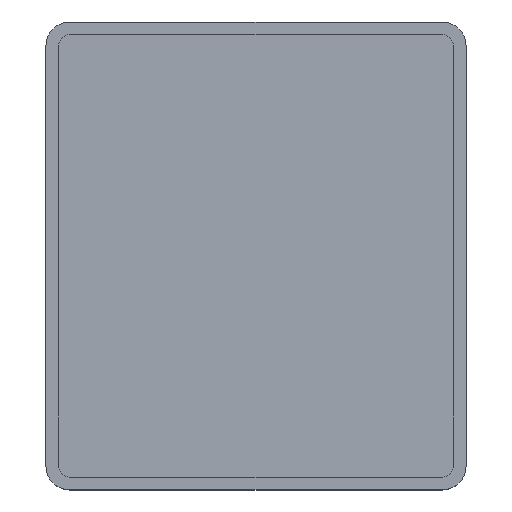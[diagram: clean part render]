
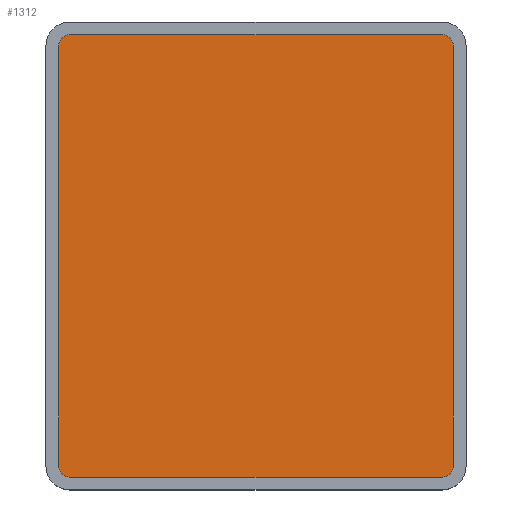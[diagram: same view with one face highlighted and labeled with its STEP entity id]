
A CAD part, top view. The second image highlights one B-rep face of the part: STEP entity #1312.
In plain terms, the highlighted planar face has unit normal (0, 0, 1).
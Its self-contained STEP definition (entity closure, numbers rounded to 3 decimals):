
#359 = CYLINDRICAL_SURFACE('',#360,0.7);
#360 = AXIS2_PLACEMENT_3D('',#361,#362,#363);
#361 = CARTESIAN_POINT('',(1.5,1.5,1.));
#362 = DIRECTION('',(0.,0.,1.));
#363 = DIRECTION('',(-1.,-0.,0.));
#386 = PLANE('',#387);
#387 = AXIS2_PLACEMENT_3D('',#388,#389,#390);
#388 = CARTESIAN_POINT('',(0.8,0.8,1.));
#389 = DIRECTION('',(1.,0.,0.));
#390 = DIRECTION('',(0.,0.,1.));
#414 = CYLINDRICAL_SURFACE('',#415,0.7);
#415 = AXIS2_PLACEMENT_3D('',#416,#417,#418);
#416 = CARTESIAN_POINT('',(1.5,27.9,1.));
#417 = DIRECTION('',(0.,0.,1.));
#418 = DIRECTION('',(-1.,-0.,0.));
#441 = PLANE('',#442);
#442 = AXIS2_PLACEMENT_3D('',#443,#444,#445);
#443 = CARTESIAN_POINT('',(0.8,28.6,1.));
#444 = DIRECTION('',(0.,1.,0.));
#445 = DIRECTION('',(0.,0.,1.));
#469 = CYLINDRICAL_SURFACE('',#470,0.7);
#470 = AXIS2_PLACEMENT_3D('',#471,#472,#473);
#471 = CARTESIAN_POINT('',(24.9,27.9,1.));
#472 = DIRECTION('',(0.,0.,1.));
#473 = DIRECTION('',(1.,0.,-0.));
#496 = PLANE('',#497);
#497 = AXIS2_PLACEMENT_3D('',#498,#499,#500);
#498 = CARTESIAN_POINT('',(25.6,0.8,1.));
#499 = DIRECTION('',(1.,0.,0.));
#500 = DIRECTION('',(0.,0.,1.));
#524 = CYLINDRICAL_SURFACE('',#525,0.7);
#525 = AXIS2_PLACEMENT_3D('',#526,#527,#528);
#526 = CARTESIAN_POINT('',(24.9,1.5,1.));
#527 = DIRECTION('',(0.,0.,1.));
#528 = DIRECTION('',(1.,0.,-0.));
#549 = PLANE('',#550);
#550 = AXIS2_PLACEMENT_3D('',#551,#552,#553);
#551 = CARTESIAN_POINT('',(0.8,0.8,1.));
#552 = DIRECTION('',(0.,1.,0.));
#553 = DIRECTION('',(0.,0.,1.));
#908 = VERTEX_POINT('',#909);
#909 = CARTESIAN_POINT('',(0.8,1.5,1.));
#930 = EDGE_CURVE('',#908,#931,#933,.T.);
#931 = VERTEX_POINT('',#932);
#932 = CARTESIAN_POINT('',(1.5,0.8,1.));
#933 = SURFACE_CURVE('',#934,(#939,#946),.PCURVE_S1.);
#934 = CIRCLE('',#935,0.7);
#935 = AXIS2_PLACEMENT_3D('',#936,#937,#938);
#936 = CARTESIAN_POINT('',(1.5,1.5,1.));
#937 = DIRECTION('',(0.,0.,1.));
#938 = DIRECTION('',(0.,-1.,0.));
#939 = PCURVE('',#359,#940);
#940 = DEFINITIONAL_REPRESENTATION('',(#941),#945);
#941 = LINE('',#942,#943);
#942 = CARTESIAN_POINT('',(-4.712,0.));
#943 = VECTOR('',#944,1.);
#944 = DIRECTION('',(1.,0.));
#945 = ( GEOMETRIC_REPRESENTATION_CONTEXT(2) 
PARAMETRIC_REPRESENTATION_CONTEXT() REPRESENTATION_CONTEXT('2D SPACE',''
  ) );
#946 = PCURVE('',#947,#952);
#947 = PLANE('',#948);
#948 = AXIS2_PLACEMENT_3D('',#949,#950,#951);
#949 = CARTESIAN_POINT('',(0.8,0.8,1.));
#950 = DIRECTION('',(0.,0.,1.));
#951 = DIRECTION('',(1.,0.,0.));
#952 = DEFINITIONAL_REPRESENTATION('',(#953),#957);
#953 = CIRCLE('',#954,0.7);
#954 = AXIS2_PLACEMENT_2D('',#955,#956);
#955 = CARTESIAN_POINT('',(0.7,0.7));
#956 = DIRECTION('',(0.,-1.));
#957 = ( GEOMETRIC_REPRESENTATION_CONTEXT(2) 
PARAMETRIC_REPRESENTATION_CONTEXT() REPRESENTATION_CONTEXT('2D SPACE',''
  ) );
#984 = EDGE_CURVE('',#931,#985,#987,.T.);
#985 = VERTEX_POINT('',#986);
#986 = CARTESIAN_POINT('',(24.9,0.8,1.));
#987 = SURFACE_CURVE('',#988,(#992,#999),.PCURVE_S1.);
#988 = LINE('',#989,#990);
#989 = CARTESIAN_POINT('',(0.8,0.8,1.));
#990 = VECTOR('',#991,1.);
#991 = DIRECTION('',(1.,0.,0.));
#992 = PCURVE('',#549,#993);
#993 = DEFINITIONAL_REPRESENTATION('',(#994),#998);
#994 = LINE('',#995,#996);
#995 = CARTESIAN_POINT('',(0.,0.));
#996 = VECTOR('',#997,1.);
#997 = DIRECTION('',(0.,1.));
#998 = ( GEOMETRIC_REPRESENTATION_CONTEXT(2) 
PARAMETRIC_REPRESENTATION_CONTEXT() REPRESENTATION_CONTEXT('2D SPACE',''
  ) );
#999 = PCURVE('',#947,#1000);
#1000 = DEFINITIONAL_REPRESENTATION('',(#1001),#1005);
#1001 = LINE('',#1002,#1003);
#1002 = CARTESIAN_POINT('',(0.,0.));
#1003 = VECTOR('',#1004,1.);
#1004 = DIRECTION('',(1.,0.));
#1005 = ( GEOMETRIC_REPRESENTATION_CONTEXT(2) 
PARAMETRIC_REPRESENTATION_CONTEXT() REPRESENTATION_CONTEXT('2D SPACE',''
  ) );
#1034 = VERTEX_POINT('',#1035);
#1035 = CARTESIAN_POINT('',(25.6,1.5,1.));
#1056 = EDGE_CURVE('',#1034,#985,#1057,.T.);
#1057 = SURFACE_CURVE('',#1058,(#1063,#1070),.PCURVE_S1.);
#1058 = CIRCLE('',#1059,0.7);
#1059 = AXIS2_PLACEMENT_3D('',#1060,#1061,#1062);
#1060 = CARTESIAN_POINT('',(24.9,1.5,1.));
#1061 = DIRECTION('',(-0.,-0.,-1.));
#1062 = DIRECTION('',(0.,-1.,0.));
#1063 = PCURVE('',#524,#1064);
#1064 = DEFINITIONAL_REPRESENTATION('',(#1065),#1069);
#1065 = LINE('',#1066,#1067);
#1066 = CARTESIAN_POINT('',(4.712,-0.));
#1067 = VECTOR('',#1068,1.);
#1068 = DIRECTION('',(-1.,0.));
#1069 = ( GEOMETRIC_REPRESENTATION_CONTEXT(2) 
PARAMETRIC_REPRESENTATION_CONTEXT() REPRESENTATION_CONTEXT('2D SPACE',''
  ) );
#1070 = PCURVE('',#947,#1071);
#1071 = DEFINITIONAL_REPRESENTATION('',(#1072),#1080);
#1072 = ( BOUNDED_CURVE() B_SPLINE_CURVE(2,(#1073,#1074,#1075,#1076,
#1077,#1078,#1079),.UNSPECIFIED.,.T.,.F.) B_SPLINE_CURVE_WITH_KNOTS((1,2
    ,2,2,2,1),(-2.094,0.,2.094,4.189,
6.283,8.378),.UNSPECIFIED.) CURVE() 
GEOMETRIC_REPRESENTATION_ITEM() RATIONAL_B_SPLINE_CURVE((1.,0.5,1.,0.5,
1.,0.5,1.)) REPRESENTATION_ITEM('') );
#1073 = CARTESIAN_POINT('',(24.1,0.));
#1074 = CARTESIAN_POINT('',(22.888,0.));
#1075 = CARTESIAN_POINT('',(23.494,1.05));
#1076 = CARTESIAN_POINT('',(24.1,2.1));
#1077 = CARTESIAN_POINT('',(24.706,1.05));
#1078 = CARTESIAN_POINT('',(25.312,0.));
#1079 = CARTESIAN_POINT('',(24.1,0.));
#1080 = ( GEOMETRIC_REPRESENTATION_CONTEXT(2) 
PARAMETRIC_REPRESENTATION_CONTEXT() REPRESENTATION_CONTEXT('2D SPACE',''
  ) );
#1089 = EDGE_CURVE('',#1034,#1090,#1092,.T.);
#1090 = VERTEX_POINT('',#1091);
#1091 = CARTESIAN_POINT('',(25.6,27.9,1.));
#1092 = SURFACE_CURVE('',#1093,(#1097,#1104),.PCURVE_S1.);
#1093 = LINE('',#1094,#1095);
#1094 = CARTESIAN_POINT('',(25.6,0.8,1.));
#1095 = VECTOR('',#1096,1.);
#1096 = DIRECTION('',(0.,1.,0.));
#1097 = PCURVE('',#496,#1098);
#1098 = DEFINITIONAL_REPRESENTATION('',(#1099),#1103);
#1099 = LINE('',#1100,#1101);
#1100 = CARTESIAN_POINT('',(0.,0.));
#1101 = VECTOR('',#1102,1.);
#1102 = DIRECTION('',(0.,-1.));
#1103 = ( GEOMETRIC_REPRESENTATION_CONTEXT(2) 
PARAMETRIC_REPRESENTATION_CONTEXT() REPRESENTATION_CONTEXT('2D SPACE',''
  ) );
#1104 = PCURVE('',#947,#1105);
#1105 = DEFINITIONAL_REPRESENTATION('',(#1106),#1110);
#1106 = LINE('',#1107,#1108);
#1107 = CARTESIAN_POINT('',(24.8,0.));
#1108 = VECTOR('',#1109,1.);
#1109 = DIRECTION('',(0.,1.));
#1110 = ( GEOMETRIC_REPRESENTATION_CONTEXT(2) 
PARAMETRIC_REPRESENTATION_CONTEXT() REPRESENTATION_CONTEXT('2D SPACE',''
  ) );
#1137 = EDGE_CURVE('',#1090,#1138,#1140,.T.);
#1138 = VERTEX_POINT('',#1139);
#1139 = CARTESIAN_POINT('',(24.9,28.6,1.));
#1140 = SURFACE_CURVE('',#1141,(#1146,#1153),.PCURVE_S1.);
#1141 = CIRCLE('',#1142,0.7);
#1142 = AXIS2_PLACEMENT_3D('',#1143,#1144,#1145);
#1143 = CARTESIAN_POINT('',(24.9,27.9,1.));
#1144 = DIRECTION('',(0.,0.,1.));
#1145 = DIRECTION('',(0.,-1.,0.));
#1146 = PCURVE('',#469,#1147);
#1147 = DEFINITIONAL_REPRESENTATION('',(#1148),#1152);
#1148 = LINE('',#1149,#1150);
#1149 = CARTESIAN_POINT('',(-1.571,0.));
#1150 = VECTOR('',#1151,1.);
#1151 = DIRECTION('',(1.,0.));
#1152 = ( GEOMETRIC_REPRESENTATION_CONTEXT(2) 
PARAMETRIC_REPRESENTATION_CONTEXT() REPRESENTATION_CONTEXT('2D SPACE',''
  ) );
#1153 = PCURVE('',#947,#1154);
#1154 = DEFINITIONAL_REPRESENTATION('',(#1155),#1159);
#1155 = CIRCLE('',#1156,0.7);
#1156 = AXIS2_PLACEMENT_2D('',#1157,#1158);
#1157 = CARTESIAN_POINT('',(24.1,27.1));
#1158 = DIRECTION('',(0.,-1.));
#1159 = ( GEOMETRIC_REPRESENTATION_CONTEXT(2) 
PARAMETRIC_REPRESENTATION_CONTEXT() REPRESENTATION_CONTEXT('2D SPACE',''
  ) );
#1186 = EDGE_CURVE('',#1187,#1138,#1189,.T.);
#1187 = VERTEX_POINT('',#1188);
#1188 = CARTESIAN_POINT('',(1.5,28.6,1.));
#1189 = SURFACE_CURVE('',#1190,(#1194,#1201),.PCURVE_S1.);
#1190 = LINE('',#1191,#1192);
#1191 = CARTESIAN_POINT('',(0.8,28.6,1.));
#1192 = VECTOR('',#1193,1.);
#1193 = DIRECTION('',(1.,0.,0.));
#1194 = PCURVE('',#441,#1195);
#1195 = DEFINITIONAL_REPRESENTATION('',(#1196),#1200);
#1196 = LINE('',#1197,#1198);
#1197 = CARTESIAN_POINT('',(0.,0.));
#1198 = VECTOR('',#1199,1.);
#1199 = DIRECTION('',(0.,1.));
#1200 = ( GEOMETRIC_REPRESENTATION_CONTEXT(2) 
PARAMETRIC_REPRESENTATION_CONTEXT() REPRESENTATION_CONTEXT('2D SPACE',''
  ) );
#1201 = PCURVE('',#947,#1202);
#1202 = DEFINITIONAL_REPRESENTATION('',(#1203),#1207);
#1203 = LINE('',#1204,#1205);
#1204 = CARTESIAN_POINT('',(0.,27.8));
#1205 = VECTOR('',#1206,1.);
#1206 = DIRECTION('',(1.,0.));
#1207 = ( GEOMETRIC_REPRESENTATION_CONTEXT(2) 
PARAMETRIC_REPRESENTATION_CONTEXT() REPRESENTATION_CONTEXT('2D SPACE',''
  ) );
#1236 = VERTEX_POINT('',#1237);
#1237 = CARTESIAN_POINT('',(0.8,27.9,1.));
#1258 = EDGE_CURVE('',#1236,#1187,#1259,.T.);
#1259 = SURFACE_CURVE('',#1260,(#1265,#1272),.PCURVE_S1.);
#1260 = CIRCLE('',#1261,0.7);
#1261 = AXIS2_PLACEMENT_3D('',#1262,#1263,#1264);
#1262 = CARTESIAN_POINT('',(1.5,27.9,1.));
#1263 = DIRECTION('',(-0.,-0.,-1.));
#1264 = DIRECTION('',(0.,-1.,0.));
#1265 = PCURVE('',#414,#1266);
#1266 = DEFINITIONAL_REPRESENTATION('',(#1267),#1271);
#1267 = LINE('',#1268,#1269);
#1268 = CARTESIAN_POINT('',(1.571,-0.));
#1269 = VECTOR('',#1270,1.);
#1270 = DIRECTION('',(-1.,0.));
#1271 = ( GEOMETRIC_REPRESENTATION_CONTEXT(2) 
PARAMETRIC_REPRESENTATION_CONTEXT() REPRESENTATION_CONTEXT('2D SPACE',''
  ) );
#1272 = PCURVE('',#947,#1273);
#1273 = DEFINITIONAL_REPRESENTATION('',(#1274),#1282);
#1274 = ( BOUNDED_CURVE() B_SPLINE_CURVE(2,(#1275,#1276,#1277,#1278,
#1279,#1280,#1281),.UNSPECIFIED.,.T.,.F.) B_SPLINE_CURVE_WITH_KNOTS((1,2
    ,2,2,2,1),(-2.094,0.,2.094,4.189,
6.283,8.378),.UNSPECIFIED.) CURVE() 
GEOMETRIC_REPRESENTATION_ITEM() RATIONAL_B_SPLINE_CURVE((1.,0.5,1.,0.5,
1.,0.5,1.)) REPRESENTATION_ITEM('') );
#1275 = CARTESIAN_POINT('',(0.7,26.4));
#1276 = CARTESIAN_POINT('',(-0.512,26.4));
#1277 = CARTESIAN_POINT('',(0.094,27.45));
#1278 = CARTESIAN_POINT('',(0.7,28.5));
#1279 = CARTESIAN_POINT('',(1.306,27.45));
#1280 = CARTESIAN_POINT('',(1.912,26.4));
#1281 = CARTESIAN_POINT('',(0.7,26.4));
#1282 = ( GEOMETRIC_REPRESENTATION_CONTEXT(2) 
PARAMETRIC_REPRESENTATION_CONTEXT() REPRESENTATION_CONTEXT('2D SPACE',''
  ) );
#1291 = EDGE_CURVE('',#908,#1236,#1292,.T.);
#1292 = SURFACE_CURVE('',#1293,(#1297,#1304),.PCURVE_S1.);
#1293 = LINE('',#1294,#1295);
#1294 = CARTESIAN_POINT('',(0.8,0.8,1.));
#1295 = VECTOR('',#1296,1.);
#1296 = DIRECTION('',(0.,1.,0.));
#1297 = PCURVE('',#386,#1298);
#1298 = DEFINITIONAL_REPRESENTATION('',(#1299),#1303);
#1299 = LINE('',#1300,#1301);
#1300 = CARTESIAN_POINT('',(0.,0.));
#1301 = VECTOR('',#1302,1.);
#1302 = DIRECTION('',(0.,-1.));
#1303 = ( GEOMETRIC_REPRESENTATION_CONTEXT(2) 
PARAMETRIC_REPRESENTATION_CONTEXT() REPRESENTATION_CONTEXT('2D SPACE',''
  ) );
#1304 = PCURVE('',#947,#1305);
#1305 = DEFINITIONAL_REPRESENTATION('',(#1306),#1310);
#1306 = LINE('',#1307,#1308);
#1307 = CARTESIAN_POINT('',(0.,0.));
#1308 = VECTOR('',#1309,1.);
#1309 = DIRECTION('',(0.,1.));
#1310 = ( GEOMETRIC_REPRESENTATION_CONTEXT(2) 
PARAMETRIC_REPRESENTATION_CONTEXT() REPRESENTATION_CONTEXT('2D SPACE',''
  ) );
#1312 = ADVANCED_FACE('',(#1313),#947,.T.);
#1313 = FACE_BOUND('',#1314,.T.);
#1314 = EDGE_LOOP('',(#1315,#1316,#1317,#1318,#1319,#1320,#1321,#1322));
#1315 = ORIENTED_EDGE('',*,*,#1291,.F.);
#1316 = ORIENTED_EDGE('',*,*,#930,.T.);
#1317 = ORIENTED_EDGE('',*,*,#984,.T.);
#1318 = ORIENTED_EDGE('',*,*,#1056,.F.);
#1319 = ORIENTED_EDGE('',*,*,#1089,.T.);
#1320 = ORIENTED_EDGE('',*,*,#1137,.T.);
#1321 = ORIENTED_EDGE('',*,*,#1186,.F.);
#1322 = ORIENTED_EDGE('',*,*,#1258,.F.);
